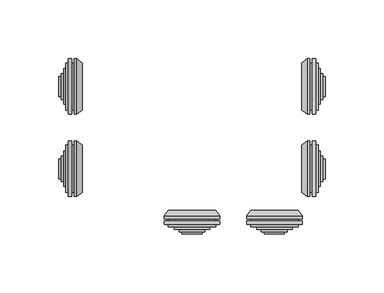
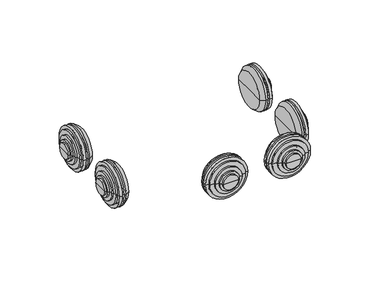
"""IFC4 building model written with IfcOpenShell, lengths in millimetres: cable carrier fitting geometry, КНС_КоробкаОтветвительнаяСКабельнымиВводами_10_IP55_DKC : с 10 кабельными вводами д.32мм, IP55, 190х140х70мм."""

from ifc_helpers import new_model, si_unit, frame, origin, place, context, project, spatial, polyline, circle_curve, source, transform, mapped, element, save
from ifc_brep_helpers import plane_surface, cylinder_surface, revolved_surface, advanced_brep


def cable_carrier_fitting_1a81308a(model_context):
    return source(origin(), model_context, "Body", "AdvancedBrep", [
        advanced_brep(
        [(-100.0, -55.0, 34.0), (-100.0, -15.0, 34.0), (-100.0, -11.5, 34.0), (-100.0, -58.5, 34.0), (-102.0, -55.0, 34.0), (-102.0, -15.0, 34.0), (-102.0, -58.5, 34.0), (-102.0, -11.5, 34.0), (-105.0, -58.5, 34.0), (-105.0, -11.5, 34.0), (-105.0, -55.0, 34.0), (-105.0, -15.0, 34.0), (-107.0, -55.0, 34.0), (-107.0, -15.0, 34.0), (-107.0, -50.0, 34.0), (-107.0, -20.0, 34.0), (-109.0, -50.0, 34.0), (-109.0, -20.0, 34.0), (-109.0, -46.0, 34.0), (-109.0, -24.0, 34.0), (-111.0, -46.0, 34.0), (-111.0, -24.0, 34.0), (-111.0, -43.5, 34.0), (-111.0, -26.5, 34.0), (-113.0, -43.5, 34.0), (-113.0, -26.5, 34.0), (-113.0, -35.0, 34.0), (-93.0, -55.0, 34.0), (-93.0, -15.0, 34.0), (-93.0, -35.0, 34.0), (-97.7491137, -58.5, 34.0), (-97.7491137, -11.5, 34.0)],
        [
            (0, 1, circle_curve(frame((-100.0, -35.0, 34.0), z_axis=(1.0, 0.0, 0.0), x_axis=(0.0, 1.0000000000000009, 0.0)), 20.0)),
            (1, 2),
            (2, 3, circle_curve(frame((-100.0, -35.0, 34.0), z_axis=(-1.0, 0.0, 0.0), x_axis=(0.0, 1.0000000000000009, 0.0)), 23.5)),
            (3, 0),
            (1, 0, circle_curve(frame((-100.0, -35.0, 34.0), z_axis=(1.0, 0.0, 0.0), x_axis=(0.0, 1.0000000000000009, 0.0)), 20.0)),
            (3, 2, circle_curve(frame((-100.0, -35.0, 34.0), z_axis=(-1.0, 0.0, 0.0), x_axis=(0.0, 1.0000000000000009, 0.0)), 23.5)),
            (4, 5, circle_curve(frame((-102.0, -35.0, 34.0), z_axis=(1.0, 0.0, 0.0), x_axis=(0.0, 1.0000000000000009, 0.0)), 20.0)),
            (5, 1),
            (0, 4),
            (5, 4, circle_curve(frame((-102.0, -35.0, 34.0), z_axis=(1.0, 0.0, 0.0), x_axis=(0.0, 1.0000000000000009, 0.0)), 20.0)),
            (6, 7, circle_curve(frame((-102.0, -35.0, 34.0), z_axis=(1.0, 0.0, 0.0), x_axis=(0.0, 1.0000000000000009, 0.0)), 23.5)),
            (7, 5),
            (4, 6),
            (7, 6, circle_curve(frame((-102.0, -35.0, 34.0), z_axis=(1.0, 0.0, 0.0), x_axis=(0.0, 1.0000000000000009, 0.0)), 23.5)),
            (8, 9, circle_curve(frame((-105.0, -35.0, 34.0), z_axis=(1.0, 0.0, 0.0), x_axis=(0.0, 1.0000000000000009, 0.0)), 23.5)),
            (9, 7),
            (6, 8),
            (9, 8, circle_curve(frame((-105.0, -35.0, 34.0), z_axis=(1.0, 0.0, 0.0), x_axis=(0.0, 1.0000000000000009, 0.0)), 23.5)),
            (10, 11, circle_curve(frame((-105.0, -35.0, 34.0), z_axis=(1.0, 0.0, 0.0), x_axis=(0.0, 1.0000000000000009, 0.0)), 20.0)),
            (11, 9),
            (8, 10),
            (11, 10, circle_curve(frame((-105.0, -35.0, 34.0), z_axis=(1.0, 0.0, 0.0), x_axis=(0.0, 1.0000000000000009, 0.0)), 20.0)),
            (12, 13, circle_curve(frame((-107.0, -35.0, 34.0), z_axis=(1.0, 0.0, 0.0), x_axis=(0.0, 1.0000000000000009, 0.0)), 20.0)),
            (13, 11),
            (10, 12),
            (13, 12, circle_curve(frame((-107.0, -35.0, 34.0), z_axis=(1.0, 0.0, 0.0), x_axis=(0.0, 1.0000000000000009, 0.0)), 20.0)),
            (14, 15, circle_curve(frame((-107.0, -35.0, 34.0), z_axis=(1.0, 0.0, 0.0), x_axis=(0.0, 1.0000000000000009, 0.0)), 15.0)),
            (15, 13),
            (12, 14),
            (15, 14, circle_curve(frame((-107.0, -35.0, 34.0), z_axis=(1.0, 0.0, 0.0), x_axis=(0.0, 1.0000000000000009, 0.0)), 15.0)),
            (16, 17, circle_curve(frame((-109.0, -35.0, 34.0), z_axis=(1.0, 0.0, 0.0), x_axis=(0.0, 1.0000000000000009, 0.0)), 15.0)),
            (17, 15),
            (14, 16),
            (17, 16, circle_curve(frame((-109.0, -35.0, 34.0), z_axis=(1.0, 0.0, 0.0), x_axis=(0.0, 1.0000000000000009, 0.0)), 15.0)),
            (18, 19, circle_curve(frame((-109.0, -35.0, 34.0), z_axis=(1.0, 0.0, 0.0), x_axis=(0.0, 1.0000000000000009, 0.0)), 11.0)),
            (19, 17),
            (16, 18),
            (19, 18, circle_curve(frame((-109.0, -35.0, 34.0), z_axis=(1.0, 0.0, 0.0), x_axis=(0.0, 1.0000000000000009, 0.0)), 11.0)),
            (20, 21, circle_curve(frame((-111.0, -35.0, 34.0), z_axis=(1.0, 0.0, 0.0), x_axis=(0.0, 1.0000000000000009, 0.0)), 11.0)),
            (21, 19),
            (18, 20),
            (21, 20, circle_curve(frame((-111.0, -35.0, 34.0), z_axis=(1.0, 0.0, 0.0), x_axis=(0.0, 1.0000000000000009, 0.0)), 11.0)),
            (22, 23, circle_curve(frame((-111.0, -35.0, 34.0), z_axis=(1.0, 0.0, 0.0), x_axis=(0.0, 1.0000000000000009, 0.0)), 8.5)),
            (23, 21),
            (20, 22),
            (23, 22, circle_curve(frame((-111.0, -35.0, 34.0), z_axis=(1.0, 0.0, 0.0), x_axis=(0.0, 1.0000000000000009, 0.0)), 8.5)),
            (24, 25, circle_curve(frame((-113.0, -35.0, 34.0), z_axis=(1.0, 0.0, 0.0), x_axis=(0.0, 1.0000000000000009, 0.0)), 8.5)),
            (25, 23),
            (22, 24),
            (25, 24, circle_curve(frame((-113.0, -35.0, 34.0), z_axis=(1.0, 0.0, 0.0), x_axis=(0.0, 1.0000000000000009, 0.0)), 8.5)),
            (26, 25),
            (24, 26),
            (27, 28, circle_curve(frame((-93.0, -35.0, 34.0), z_axis=(1.0, 0.0, 0.0), x_axis=(0.0, 1.0000000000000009, 0.0)), 20.0)),
            (28, 29),
            (29, 27),
            (28, 27, circle_curve(frame((-93.0, -35.0, 34.0), z_axis=(1.0, 0.0, 0.0), x_axis=(0.0, 1.0000000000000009, 0.0)), 20.0)),
            (30, 31, circle_curve(frame((-97.7491137, -35.0, 34.0), z_axis=(1.0, 0.0, 0.0), x_axis=(0.0, 1.0000000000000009, 0.0)), 23.5)),
            (31, 28),
            (27, 30),
            (31, 30, circle_curve(frame((-97.7491137, -35.0, 34.0), z_axis=(1.0, 0.0, 0.0), x_axis=(0.0, 1.0000000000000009, 0.0)), 23.5)),
            (2, 31),
            (30, 3),
        ],
        [
            plane_surface(frame((-100.0, -35.0, 34.0), z_axis=(-1.0, 0.0, 0.0), x_axis=(0.0, 1.0, 0.0))),
            cylinder_surface(frame((1413.0, -35.0, 34.0), z_axis=(-1.0000000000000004, 0.0, 0.0), x_axis=(0.0, 1.0000000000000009, 0.0)), 20.0),
            plane_surface(frame((-102.0, -35.0, 34.0), z_axis=(1.0, 0.0, 0.0), x_axis=(0.0, 1.0, 0.0))),
            cylinder_surface(frame((1413.0, -35.0, 34.0), z_axis=(-1.0000000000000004, 0.0, 0.0), x_axis=(0.0, 1.0000000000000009, 0.0)), 23.5),
            plane_surface(frame((-105.0, -35.0, 34.0), z_axis=(-1.0, 0.0, 0.0), x_axis=(0.0, 1.0, 0.0))),
            plane_surface(frame((-107.0, -35.0, 34.0), z_axis=(-1.0, 0.0, 0.0), x_axis=(0.0, 1.0, 0.0))),
            cylinder_surface(frame((1413.0, -35.0, 34.0), z_axis=(-1.0000000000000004, 0.0, 0.0), x_axis=(0.0, 1.0000000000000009, 0.0)), 15.0),
            plane_surface(frame((-109.0, -35.0, 34.0), z_axis=(-1.0, 0.0, 0.0), x_axis=(0.0, 1.0, 0.0))),
            cylinder_surface(frame((1413.0, -35.0, 34.0), z_axis=(-1.0000000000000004, 0.0, 0.0), x_axis=(0.0, 1.0000000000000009, 0.0)), 11.0),
            plane_surface(frame((-111.0, -35.0, 34.0), z_axis=(-1.0, 0.0, 0.0), x_axis=(0.0, 1.0, 0.0))),
            cylinder_surface(frame((1413.0, -35.0, 34.0), z_axis=(-1.0000000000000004, 0.0, 0.0), x_axis=(0.0, 1.0000000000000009, 0.0)), 8.5),
            plane_surface(frame((-113.0, -35.0, 34.0), z_axis=(-1.0, 0.0, 0.0), x_axis=(0.0, 1.0, 0.0))),
            plane_surface(frame((-93.0, -35.0, 34.0), z_axis=(1.0, 0.0, 0.0), x_axis=(0.0, 1.0, 0.0))),
            revolved_surface(polyline([(-93.0, -15.0, 34.0), (-97.7491137, -11.5, 34.0)]), (1413.0, -35.0, 34.0), (-1.0000000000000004, 0.0, 0.0)),
        ],
        [
            (0, [[1, 2, 3, 4]]),
            (0, [[5, -4, 6, -2]]),
            (1, [[7, 8, -1, 9]]),
            (1, [[10, -9, -5, -8]]),
            (2, [[11, 12, -7, 13]]),
            (2, [[14, -13, -10, -12]]),
            (3, [[15, 16, -11, 17]]),
            (3, [[18, -17, -14, -16]]),
            (4, [[19, 20, -15, 21]]),
            (4, [[22, -21, -18, -20]]),
            (1, [[23, 24, -19, 25]]),
            (1, [[26, -25, -22, -24]]),
            (5, [[27, 28, -23, 29]]),
            (5, [[30, -29, -26, -28]]),
            (6, [[31, 32, -27, 33]]),
            (6, [[34, -33, -30, -32]]),
            (7, [[35, 36, -31, 37]]),
            (7, [[38, -37, -34, -36]]),
            (8, [[39, 40, -35, 41]]),
            (8, [[42, -41, -38, -40]]),
            (9, [[43, 44, -39, 45]]),
            (9, [[46, -45, -42, -44]]),
            (10, [[47, 48, -43, 49]]),
            (10, [[50, -49, -46, -48]]),
            (11, [[51, -47, 52]]),
            (11, [[-52, -50, -51]]),
            (12, [[53, 54, 55]]),
            (12, [[56, -55, -54]]),
            (13, [[57, 58, -53, 59]]),
            (13, [[60, -59, -56, -58]]),
            (3, [[-3, 61, -57, 62]]),
            (3, [[-6, -62, -60, -61]]),
        ],
    ),
        advanced_brep(
        [(-100.0, 15.0, 34.0), (-100.0, 55.0, 34.0), (-100.0, 58.5, 34.0), (-100.0, 11.5, 34.0), (-102.0, 15.0, 34.0), (-102.0, 55.0, 34.0), (-102.0, 11.5, 34.0), (-102.0, 58.5, 34.0), (-105.0, 11.5, 34.0), (-105.0, 58.5, 34.0), (-105.0, 15.0, 34.0), (-105.0, 55.0, 34.0), (-107.0, 15.0, 34.0), (-107.0, 55.0, 34.0), (-107.0, 20.0, 34.0), (-107.0, 50.0, 34.0), (-109.0, 20.0, 34.0), (-109.0, 50.0, 34.0), (-109.0, 24.0, 34.0), (-109.0, 46.0, 34.0), (-111.0, 24.0, 34.0), (-111.0, 46.0, 34.0), (-111.0, 26.5, 34.0), (-111.0, 43.5, 34.0), (-113.0, 26.5, 34.0), (-113.0, 43.5, 34.0), (-113.0, 35.0, 34.0), (-93.0, 15.0, 34.0), (-93.0, 55.0, 34.0), (-93.0, 35.0, 34.0), (-97.7491137, 11.5, 34.0), (-97.7491137, 58.5, 34.0)],
        [
            (0, 1, circle_curve(frame((-100.0, 35.0, 34.0), z_axis=(1.0, 0.0, 0.0), x_axis=(0.0, 1.0000000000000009, 0.0)), 20.0)),
            (1, 2),
            (2, 3, circle_curve(frame((-100.0, 35.0, 34.0), z_axis=(-1.0, 0.0, 0.0), x_axis=(0.0, 1.0000000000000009, 0.0)), 23.5)),
            (3, 0),
            (1, 0, circle_curve(frame((-100.0, 35.0, 34.0), z_axis=(1.0, 0.0, 0.0), x_axis=(0.0, 1.0000000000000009, 0.0)), 20.0)),
            (3, 2, circle_curve(frame((-100.0, 35.0, 34.0), z_axis=(-1.0, 0.0, 0.0), x_axis=(0.0, 1.0000000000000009, 0.0)), 23.5)),
            (4, 5, circle_curve(frame((-102.0, 35.0, 34.0), z_axis=(1.0, 0.0, 0.0), x_axis=(0.0, 1.0000000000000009, 0.0)), 20.0)),
            (5, 1),
            (0, 4),
            (5, 4, circle_curve(frame((-102.0, 35.0, 34.0), z_axis=(1.0, 0.0, 0.0), x_axis=(0.0, 1.0000000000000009, 0.0)), 20.0)),
            (6, 7, circle_curve(frame((-102.0, 35.0, 34.0), z_axis=(1.0, 0.0, 0.0), x_axis=(0.0, 1.0000000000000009, 0.0)), 23.5)),
            (7, 5),
            (4, 6),
            (7, 6, circle_curve(frame((-102.0, 35.0, 34.0), z_axis=(1.0, 0.0, 0.0), x_axis=(0.0, 1.0000000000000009, 0.0)), 23.5)),
            (8, 9, circle_curve(frame((-105.0, 35.0, 34.0), z_axis=(1.0, 0.0, 0.0), x_axis=(0.0, 1.0000000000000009, 0.0)), 23.5)),
            (9, 7),
            (6, 8),
            (9, 8, circle_curve(frame((-105.0, 35.0, 34.0), z_axis=(1.0, 0.0, 0.0), x_axis=(0.0, 1.0000000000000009, 0.0)), 23.5)),
            (10, 11, circle_curve(frame((-105.0, 35.0, 34.0), z_axis=(1.0, 0.0, 0.0), x_axis=(0.0, 1.0000000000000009, 0.0)), 20.0)),
            (11, 9),
            (8, 10),
            (11, 10, circle_curve(frame((-105.0, 35.0, 34.0), z_axis=(1.0, 0.0, 0.0), x_axis=(0.0, 1.0000000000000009, 0.0)), 20.0)),
            (12, 13, circle_curve(frame((-107.0, 35.0, 34.0), z_axis=(1.0, 0.0, 0.0), x_axis=(0.0, 1.0000000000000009, 0.0)), 20.0)),
            (13, 11),
            (10, 12),
            (13, 12, circle_curve(frame((-107.0, 35.0, 34.0), z_axis=(1.0, 0.0, 0.0), x_axis=(0.0, 1.0000000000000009, 0.0)), 20.0)),
            (14, 15, circle_curve(frame((-107.0, 35.0, 34.0), z_axis=(1.0, 0.0, 0.0), x_axis=(0.0, 1.0000000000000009, 0.0)), 15.0)),
            (15, 13),
            (12, 14),
            (15, 14, circle_curve(frame((-107.0, 35.0, 34.0), z_axis=(1.0, 0.0, 0.0), x_axis=(0.0, 1.0000000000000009, 0.0)), 15.0)),
            (16, 17, circle_curve(frame((-109.0, 35.0, 34.0), z_axis=(1.0, 0.0, 0.0), x_axis=(0.0, 1.0000000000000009, 0.0)), 15.0)),
            (17, 15),
            (14, 16),
            (17, 16, circle_curve(frame((-109.0, 35.0, 34.0), z_axis=(1.0, 0.0, 0.0), x_axis=(0.0, 1.0000000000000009, 0.0)), 15.0)),
            (18, 19, circle_curve(frame((-109.0, 35.0, 34.0), z_axis=(1.0, 0.0, 0.0), x_axis=(0.0, 1.0000000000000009, 0.0)), 11.0)),
            (19, 17),
            (16, 18),
            (19, 18, circle_curve(frame((-109.0, 35.0, 34.0), z_axis=(1.0, 0.0, 0.0), x_axis=(0.0, 1.0000000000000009, 0.0)), 11.0)),
            (20, 21, circle_curve(frame((-111.0, 35.0, 34.0), z_axis=(1.0, 0.0, 0.0), x_axis=(0.0, 1.0000000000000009, 0.0)), 11.0)),
            (21, 19),
            (18, 20),
            (21, 20, circle_curve(frame((-111.0, 35.0, 34.0), z_axis=(1.0, 0.0, 0.0), x_axis=(0.0, 1.0000000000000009, 0.0)), 11.0)),
            (22, 23, circle_curve(frame((-111.0, 35.0, 34.0), z_axis=(1.0, 0.0, 0.0), x_axis=(0.0, 1.0000000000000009, 0.0)), 8.5)),
            (23, 21),
            (20, 22),
            (23, 22, circle_curve(frame((-111.0, 35.0, 34.0), z_axis=(1.0, 0.0, 0.0), x_axis=(0.0, 1.0000000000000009, 0.0)), 8.5)),
            (24, 25, circle_curve(frame((-113.0, 35.0, 34.0), z_axis=(1.0, 0.0, 0.0), x_axis=(0.0, 1.0000000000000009, 0.0)), 8.5)),
            (25, 23),
            (22, 24),
            (25, 24, circle_curve(frame((-113.0, 35.0, 34.0), z_axis=(1.0, 0.0, 0.0), x_axis=(0.0, 1.0000000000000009, 0.0)), 8.5)),
            (26, 25),
            (24, 26),
            (27, 28, circle_curve(frame((-93.0, 35.0, 34.0), z_axis=(1.0, 0.0, 0.0), x_axis=(0.0, 1.0000000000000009, 0.0)), 20.0)),
            (28, 29),
            (29, 27),
            (28, 27, circle_curve(frame((-93.0, 35.0, 34.0), z_axis=(1.0, 0.0, 0.0), x_axis=(0.0, 1.0000000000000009, 0.0)), 20.0)),
            (30, 31, circle_curve(frame((-97.7491137, 35.0, 34.0), z_axis=(1.0, 0.0, 0.0), x_axis=(0.0, 1.0000000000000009, 0.0)), 23.5)),
            (31, 28),
            (27, 30),
            (31, 30, circle_curve(frame((-97.7491137, 35.0, 34.0), z_axis=(1.0, 0.0, 0.0), x_axis=(0.0, 1.0000000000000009, 0.0)), 23.5)),
            (2, 31),
            (30, 3),
        ],
        [
            plane_surface(frame((-100.0, 35.0, 34.0), z_axis=(-1.0, 0.0, 0.0), x_axis=(0.0, 1.0, 0.0))),
            cylinder_surface(frame((1413.0, 35.0, 34.0), z_axis=(-1.0000000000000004, 0.0, 0.0), x_axis=(0.0, 1.0000000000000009, 0.0)), 20.0),
            plane_surface(frame((-102.0, 35.0, 34.0), z_axis=(1.0, 0.0, 0.0), x_axis=(0.0, 1.0, 0.0))),
            cylinder_surface(frame((1413.0, 35.0, 34.0), z_axis=(-1.0000000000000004, 0.0, 0.0), x_axis=(0.0, 1.0000000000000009, 0.0)), 23.5),
            plane_surface(frame((-105.0, 35.0, 34.0), z_axis=(-1.0, 0.0, 0.0), x_axis=(0.0, 1.0, 0.0))),
            plane_surface(frame((-107.0, 35.0, 34.0), z_axis=(-1.0, 0.0, 0.0), x_axis=(0.0, 1.0, 0.0))),
            cylinder_surface(frame((1413.0, 35.0, 34.0), z_axis=(-1.0000000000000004, 0.0, 0.0), x_axis=(0.0, 1.0000000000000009, 0.0)), 15.0),
            plane_surface(frame((-109.0, 35.0, 34.0), z_axis=(-1.0, 0.0, 0.0), x_axis=(0.0, 1.0, 0.0))),
            cylinder_surface(frame((1413.0, 35.0, 34.0), z_axis=(-1.0000000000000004, 0.0, 0.0), x_axis=(0.0, 1.0000000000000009, 0.0)), 11.0),
            plane_surface(frame((-111.0, 35.0, 34.0), z_axis=(-1.0, 0.0, 0.0), x_axis=(0.0, 1.0, 0.0))),
            cylinder_surface(frame((1413.0, 35.0, 34.0), z_axis=(-1.0000000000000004, 0.0, 0.0), x_axis=(0.0, 1.0000000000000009, 0.0)), 8.5),
            plane_surface(frame((-113.0, 35.0, 34.0), z_axis=(-1.0, 0.0, 0.0), x_axis=(0.0, 1.0, 0.0))),
            plane_surface(frame((-93.0, 35.0, 34.0), z_axis=(1.0, 0.0, 0.0), x_axis=(0.0, 1.0, 0.0))),
            revolved_surface(polyline([(-93.0, 55.0, 34.0), (-97.7491137, 58.5, 34.0)]), (1413.0, 35.0, 34.0), (-1.0000000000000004, 0.0, 0.0)),
        ],
        [
            (0, [[1, 2, 3, 4]]),
            (0, [[5, -4, 6, -2]]),
            (1, [[7, 8, -1, 9]]),
            (1, [[10, -9, -5, -8]]),
            (2, [[11, 12, -7, 13]]),
            (2, [[14, -13, -10, -12]]),
            (3, [[15, 16, -11, 17]]),
            (3, [[18, -17, -14, -16]]),
            (4, [[19, 20, -15, 21]]),
            (4, [[22, -21, -18, -20]]),
            (1, [[23, 24, -19, 25]]),
            (1, [[26, -25, -22, -24]]),
            (5, [[27, 28, -23, 29]]),
            (5, [[30, -29, -26, -28]]),
            (6, [[31, 32, -27, 33]]),
            (6, [[34, -33, -30, -32]]),
            (7, [[35, 36, -31, 37]]),
            (7, [[38, -37, -34, -36]]),
            (8, [[39, 40, -35, 41]]),
            (8, [[42, -41, -38, -40]]),
            (9, [[43, 44, -39, 45]]),
            (9, [[46, -45, -42, -44]]),
            (10, [[47, 48, -43, 49]]),
            (10, [[50, -49, -46, -48]]),
            (11, [[51, -47, 52]]),
            (11, [[-52, -50, -51]]),
            (12, [[53, 54, 55]]),
            (12, [[56, -55, -54]]),
            (13, [[57, 58, -53, 59]]),
            (13, [[60, -59, -56, -58]]),
            (3, [[-3, 61, -57, 62]]),
            (3, [[-6, -62, -60, -61]]),
        ],
    ),
        advanced_brep(
        [(100.0, 55.0, 34.0), (100.0, 15.0, 34.0), (100.0, 11.5, 34.0), (100.0, 58.5, 34.0), (102.0, 55.0, 34.0), (102.0, 15.0, 34.0), (102.0, 58.5, 34.0), (102.0, 11.5, 34.0), (105.0, 58.5, 34.0), (105.0, 11.5, 34.0), (105.0, 55.0, 34.0), (105.0, 15.0, 34.0), (107.0, 55.0, 34.0), (107.0, 15.0, 34.0), (107.0, 50.0, 34.0), (107.0, 20.0, 34.0), (109.0, 50.0, 34.0), (109.0, 20.0, 34.0), (109.0, 46.0, 34.0), (109.0, 24.0, 34.0), (111.0, 46.0, 34.0), (111.0, 24.0, 34.0), (111.0, 43.5, 34.0), (111.0, 26.5, 34.0), (113.0, 43.5, 34.0), (113.0, 26.5, 34.0), (113.0, 35.0, 34.0), (93.0, 55.0, 34.0), (93.0, 15.0, 34.0), (93.0, 35.0, 34.0), (97.7491137, 58.5, 34.0), (97.7491137, 11.5, 34.0)],
        [
            (0, 1, circle_curve(frame((100.0, 35.0, 34.0), z_axis=(-1.0, 0.0, 0.0), x_axis=(0.0, -1.0, 0.0)), 20.0)),
            (1, 2),
            (2, 3, circle_curve(frame((100.0, 35.0, 34.0), z_axis=(1.0, 0.0, 0.0), x_axis=(0.0, -1.0, 0.0)), 23.5)),
            (3, 0),
            (1, 0, circle_curve(frame((100.0, 35.0, 34.0), z_axis=(-1.0, 0.0, 0.0), x_axis=(0.0, -1.0, 0.0)), 20.0)),
            (3, 2, circle_curve(frame((100.0, 35.0, 34.0), z_axis=(1.0, 0.0, 0.0), x_axis=(0.0, -1.0, 0.0)), 23.5)),
            (4, 5, circle_curve(frame((102.0, 35.0, 34.0), z_axis=(-1.0, 0.0, 0.0), x_axis=(0.0, -1.0, 0.0)), 20.0)),
            (5, 1),
            (0, 4),
            (5, 4, circle_curve(frame((102.0, 35.0, 34.0), z_axis=(-1.0, 0.0, 0.0), x_axis=(0.0, -1.0, 0.0)), 20.0)),
            (6, 7, circle_curve(frame((102.0, 35.0, 34.0), z_axis=(-1.0, 0.0, 0.0), x_axis=(0.0, -1.0, 0.0)), 23.5)),
            (7, 5),
            (4, 6),
            (7, 6, circle_curve(frame((102.0, 35.0, 34.0), z_axis=(-1.0, 0.0, 0.0), x_axis=(0.0, -1.0, 0.0)), 23.5)),
            (8, 9, circle_curve(frame((105.0, 35.0, 34.0), z_axis=(-1.0, 0.0, 0.0), x_axis=(0.0, -1.0, 0.0)), 23.5)),
            (9, 7),
            (6, 8),
            (9, 8, circle_curve(frame((105.0, 35.0, 34.0), z_axis=(-1.0, 0.0, 0.0), x_axis=(0.0, -1.0, 0.0)), 23.5)),
            (10, 11, circle_curve(frame((105.0, 35.0, 34.0), z_axis=(-1.0, 0.0, 0.0), x_axis=(0.0, -1.0, 0.0)), 20.0)),
            (11, 9),
            (8, 10),
            (11, 10, circle_curve(frame((105.0, 35.0, 34.0), z_axis=(-1.0, 0.0, 0.0), x_axis=(0.0, -1.0, 0.0)), 20.0)),
            (12, 13, circle_curve(frame((107.0, 35.0, 34.0), z_axis=(-1.0, 0.0, 0.0), x_axis=(0.0, -1.0, 0.0)), 20.0)),
            (13, 11),
            (10, 12),
            (13, 12, circle_curve(frame((107.0, 35.0, 34.0), z_axis=(-1.0, 0.0, 0.0), x_axis=(0.0, -1.0, 0.0)), 20.0)),
            (14, 15, circle_curve(frame((107.0, 35.0, 34.0), z_axis=(-1.0, 0.0, 0.0), x_axis=(0.0, -1.0, 0.0)), 15.0)),
            (15, 13),
            (12, 14),
            (15, 14, circle_curve(frame((107.0, 35.0, 34.0), z_axis=(-1.0, 0.0, 0.0), x_axis=(0.0, -1.0, 0.0)), 15.0)),
            (16, 17, circle_curve(frame((109.0, 35.0, 34.0), z_axis=(-1.0, 0.0, 0.0), x_axis=(0.0, -1.0, 0.0)), 15.0)),
            (17, 15),
            (14, 16),
            (17, 16, circle_curve(frame((109.0, 35.0, 34.0), z_axis=(-1.0, 0.0, 0.0), x_axis=(0.0, -1.0, 0.0)), 15.0)),
            (18, 19, circle_curve(frame((109.0, 35.0, 34.0), z_axis=(-1.0, 0.0, 0.0), x_axis=(0.0, -1.0, 0.0)), 11.0)),
            (19, 17),
            (16, 18),
            (19, 18, circle_curve(frame((109.0, 35.0, 34.0), z_axis=(-1.0, 0.0, 0.0), x_axis=(0.0, -1.0, 0.0)), 11.0)),
            (20, 21, circle_curve(frame((111.0, 35.0, 34.0), z_axis=(-1.0, 0.0, 0.0), x_axis=(0.0, -1.0, 0.0)), 11.0)),
            (21, 19),
            (18, 20),
            (21, 20, circle_curve(frame((111.0, 35.0, 34.0), z_axis=(-1.0, 0.0, 0.0), x_axis=(0.0, -1.0, 0.0)), 11.0)),
            (22, 23, circle_curve(frame((111.0, 35.0, 34.0), z_axis=(-1.0, 0.0, 0.0), x_axis=(0.0, -1.0, 0.0)), 8.5)),
            (23, 21),
            (20, 22),
            (23, 22, circle_curve(frame((111.0, 35.0, 34.0), z_axis=(-1.0, 0.0, 0.0), x_axis=(0.0, -1.0, 0.0)), 8.5)),
            (24, 25, circle_curve(frame((113.0, 35.0, 34.0), z_axis=(-1.0, 0.0, 0.0), x_axis=(0.0, -1.0, 0.0)), 8.5)),
            (25, 23),
            (22, 24),
            (25, 24, circle_curve(frame((113.0, 35.0, 34.0), z_axis=(-1.0, 0.0, 0.0), x_axis=(0.0, -1.0, 0.0)), 8.5)),
            (26, 25),
            (24, 26),
            (27, 28, circle_curve(frame((93.0, 35.0, 34.0), z_axis=(-1.0, 0.0, 0.0), x_axis=(0.0, -1.0, 0.0)), 20.0)),
            (28, 29),
            (29, 27),
            (28, 27, circle_curve(frame((93.0, 35.0, 34.0), z_axis=(-1.0, 0.0, 0.0), x_axis=(0.0, -1.0, 0.0)), 20.0)),
            (30, 31, circle_curve(frame((97.7491137, 35.0, 34.0), z_axis=(-1.0, 0.0, 0.0), x_axis=(0.0, -1.0, 0.0)), 23.5)),
            (31, 28),
            (27, 30),
            (31, 30, circle_curve(frame((97.7491137, 35.0, 34.0), z_axis=(-1.0, 0.0, 0.0), x_axis=(0.0, -1.0, 0.0)), 23.5)),
            (2, 31),
            (30, 3),
        ],
        [
            plane_surface(frame((100.0, 35.0, 34.0), z_axis=(1.0, 0.0, 0.0), x_axis=(0.0, -1.0, 0.0))),
            cylinder_surface(frame((-1413.0, 35.0, 34.0), z_axis=(1.0, 0.0, 0.0), x_axis=(0.0, -1.0, 0.0)), 20.0),
            plane_surface(frame((102.0, 35.0, 34.0), z_axis=(-1.0, 0.0, 0.0), x_axis=(0.0, -1.0, 0.0))),
            cylinder_surface(frame((-1413.0, 35.0, 34.0), z_axis=(1.0, 0.0, 0.0), x_axis=(0.0, -1.0, 0.0)), 23.5),
            plane_surface(frame((105.0, 35.0, 34.0), z_axis=(1.0, 0.0, 0.0), x_axis=(0.0, -1.0, 0.0))),
            plane_surface(frame((107.0, 35.0, 34.0), z_axis=(1.0, 0.0, 0.0), x_axis=(0.0, -1.0, 0.0))),
            cylinder_surface(frame((-1413.0, 35.0, 34.0), z_axis=(1.0, 0.0, 0.0), x_axis=(0.0, -1.0, 0.0)), 15.0),
            plane_surface(frame((109.0, 35.0, 34.0), z_axis=(1.0, 0.0, 0.0), x_axis=(0.0, -1.0, 0.0))),
            cylinder_surface(frame((-1413.0, 35.0, 34.0), z_axis=(1.0, 0.0, 0.0), x_axis=(0.0, -1.0, 0.0)), 11.0),
            plane_surface(frame((111.0, 35.0, 34.0), z_axis=(1.0, 0.0, 0.0), x_axis=(0.0, -1.0, 0.0))),
            cylinder_surface(frame((-1413.0, 35.0, 34.0), z_axis=(1.0, 0.0, 0.0), x_axis=(0.0, -1.0, 0.0)), 8.5),
            plane_surface(frame((113.0, 35.0, 34.0), z_axis=(1.0, 0.0, 0.0), x_axis=(0.0, -1.0, 0.0))),
            plane_surface(frame((93.0, 35.0, 34.0), z_axis=(-1.0, 0.0, 0.0), x_axis=(0.0, -1.0, 0.0))),
            revolved_surface(polyline([(93.0, 15.0, 34.0), (97.7491137, 11.5, 34.0)]), (-1413.0, 35.0, 34.0), (1.0, 0.0, 0.0)),
        ],
        [
            (0, [[1, 2, 3, 4]]),
            (0, [[5, -4, 6, -2]]),
            (1, [[7, 8, -1, 9]]),
            (1, [[10, -9, -5, -8]]),
            (2, [[11, 12, -7, 13]]),
            (2, [[14, -13, -10, -12]]),
            (3, [[15, 16, -11, 17]]),
            (3, [[18, -17, -14, -16]]),
            (4, [[19, 20, -15, 21]]),
            (4, [[22, -21, -18, -20]]),
            (1, [[23, 24, -19, 25]]),
            (1, [[26, -25, -22, -24]]),
            (5, [[27, 28, -23, 29]]),
            (5, [[30, -29, -26, -28]]),
            (6, [[31, 32, -27, 33]]),
            (6, [[34, -33, -30, -32]]),
            (7, [[35, 36, -31, 37]]),
            (7, [[38, -37, -34, -36]]),
            (8, [[39, 40, -35, 41]]),
            (8, [[42, -41, -38, -40]]),
            (9, [[43, 44, -39, 45]]),
            (9, [[46, -45, -42, -44]]),
            (10, [[47, 48, -43, 49]]),
            (10, [[50, -49, -46, -48]]),
            (11, [[51, -47, 52]]),
            (11, [[-52, -50, -51]]),
            (12, [[53, 54, 55]]),
            (12, [[56, -55, -54]]),
            (13, [[57, 58, -53, 59]]),
            (13, [[60, -59, -56, -58]]),
            (3, [[-3, 61, -57, 62]]),
            (3, [[-6, -62, -60, -61]]),
        ],
    ),
        advanced_brep(
        [(100.0, -15.0, 34.0), (100.0, -55.0, 34.0), (100.0, -58.5, 34.0), (100.0, -11.5, 34.0), (102.0, -15.0, 34.0), (102.0, -55.0, 34.0), (102.0, -11.5, 34.0), (102.0, -58.5, 34.0), (105.0, -11.5, 34.0), (105.0, -58.5, 34.0), (105.0, -15.0, 34.0), (105.0, -55.0, 34.0), (107.0, -15.0, 34.0), (107.0, -55.0, 34.0), (107.0, -20.0, 34.0), (107.0, -50.0, 34.0), (109.0, -20.0, 34.0), (109.0, -50.0, 34.0), (109.0, -24.0, 34.0), (109.0, -46.0, 34.0), (111.0, -24.0, 34.0), (111.0, -46.0, 34.0), (111.0, -26.5, 34.0), (111.0, -43.5, 34.0), (113.0, -26.5, 34.0), (113.0, -43.5, 34.0), (113.0, -35.0, 34.0), (93.0, -15.0, 34.0), (93.0, -55.0, 34.0), (93.0, -35.0, 34.0), (97.7491137, -11.5, 34.0), (97.7491137, -58.5, 34.0)],
        [
            (0, 1, circle_curve(frame((100.0, -35.0, 34.0), z_axis=(-1.0, 0.0, 0.0), x_axis=(0.0, -1.0000000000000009, 0.0)), 20.0)),
            (1, 2),
            (2, 3, circle_curve(frame((100.0, -35.0, 34.0), z_axis=(1.0, 0.0, 0.0), x_axis=(0.0, -1.0000000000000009, 0.0)), 23.5)),
            (3, 0),
            (1, 0, circle_curve(frame((100.0, -35.0, 34.0), z_axis=(-1.0, 0.0, 0.0), x_axis=(0.0, -1.0000000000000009, 0.0)), 20.0)),
            (3, 2, circle_curve(frame((100.0, -35.0, 34.0), z_axis=(1.0, 0.0, 0.0), x_axis=(0.0, -1.0000000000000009, 0.0)), 23.5)),
            (4, 5, circle_curve(frame((102.0, -35.0, 34.0), z_axis=(-1.0, 0.0, 0.0), x_axis=(0.0, -1.0000000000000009, 0.0)), 20.0)),
            (5, 1),
            (0, 4),
            (5, 4, circle_curve(frame((102.0, -35.0, 34.0), z_axis=(-1.0, 0.0, 0.0), x_axis=(0.0, -1.0000000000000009, 0.0)), 20.0)),
            (6, 7, circle_curve(frame((102.0, -35.0, 34.0), z_axis=(-1.0, 0.0, 0.0), x_axis=(0.0, -1.0000000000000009, 0.0)), 23.5)),
            (7, 5),
            (4, 6),
            (7, 6, circle_curve(frame((102.0, -35.0, 34.0), z_axis=(-1.0, 0.0, 0.0), x_axis=(0.0, -1.0000000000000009, 0.0)), 23.5)),
            (8, 9, circle_curve(frame((105.0, -35.0, 34.0), z_axis=(-1.0, 0.0, 0.0), x_axis=(0.0, -1.0000000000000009, 0.0)), 23.5)),
            (9, 7),
            (6, 8),
            (9, 8, circle_curve(frame((105.0, -35.0, 34.0), z_axis=(-1.0, 0.0, 0.0), x_axis=(0.0, -1.0000000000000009, 0.0)), 23.5)),
            (10, 11, circle_curve(frame((105.0, -35.0, 34.0), z_axis=(-1.0, 0.0, 0.0), x_axis=(0.0, -1.0000000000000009, 0.0)), 20.0)),
            (11, 9),
            (8, 10),
            (11, 10, circle_curve(frame((105.0, -35.0, 34.0), z_axis=(-1.0, 0.0, 0.0), x_axis=(0.0, -1.0000000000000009, 0.0)), 20.0)),
            (12, 13, circle_curve(frame((107.0, -35.0, 34.0), z_axis=(-1.0, 0.0, 0.0), x_axis=(0.0, -1.0000000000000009, 0.0)), 20.0)),
            (13, 11),
            (10, 12),
            (13, 12, circle_curve(frame((107.0, -35.0, 34.0), z_axis=(-1.0, 0.0, 0.0), x_axis=(0.0, -1.0000000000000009, 0.0)), 20.0)),
            (14, 15, circle_curve(frame((107.0, -35.0, 34.0), z_axis=(-1.0, 0.0, 0.0), x_axis=(0.0, -1.0000000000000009, 0.0)), 15.0)),
            (15, 13),
            (12, 14),
            (15, 14, circle_curve(frame((107.0, -35.0, 34.0), z_axis=(-1.0, 0.0, 0.0), x_axis=(0.0, -1.0000000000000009, 0.0)), 15.0)),
            (16, 17, circle_curve(frame((109.0, -35.0, 34.0), z_axis=(-1.0, 0.0, 0.0), x_axis=(0.0, -1.0000000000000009, 0.0)), 15.0)),
            (17, 15),
            (14, 16),
            (17, 16, circle_curve(frame((109.0, -35.0, 34.0), z_axis=(-1.0, 0.0, 0.0), x_axis=(0.0, -1.0000000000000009, 0.0)), 15.0)),
            (18, 19, circle_curve(frame((109.0, -35.0, 34.0), z_axis=(-1.0, 0.0, 0.0), x_axis=(0.0, -1.0000000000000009, 0.0)), 11.0)),
            (19, 17),
            (16, 18),
            (19, 18, circle_curve(frame((109.0, -35.0, 34.0), z_axis=(-1.0, 0.0, 0.0), x_axis=(0.0, -1.0000000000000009, 0.0)), 11.0)),
            (20, 21, circle_curve(frame((111.0, -35.0, 34.0), z_axis=(-1.0, 0.0, 0.0), x_axis=(0.0, -1.0000000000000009, 0.0)), 11.0)),
            (21, 19),
            (18, 20),
            (21, 20, circle_curve(frame((111.0, -35.0, 34.0), z_axis=(-1.0, 0.0, 0.0), x_axis=(0.0, -1.0000000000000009, 0.0)), 11.0)),
            (22, 23, circle_curve(frame((111.0, -35.0, 34.0), z_axis=(-1.0, 0.0, 0.0), x_axis=(0.0, -1.0000000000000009, 0.0)), 8.5)),
            (23, 21),
            (20, 22),
            (23, 22, circle_curve(frame((111.0, -35.0, 34.0), z_axis=(-1.0, 0.0, 0.0), x_axis=(0.0, -1.0000000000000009, 0.0)), 8.5)),
            (24, 25, circle_curve(frame((113.0, -35.0, 34.0), z_axis=(-1.0, 0.0, 0.0), x_axis=(0.0, -1.0000000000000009, 0.0)), 8.5)),
            (25, 23),
            (22, 24),
            (25, 24, circle_curve(frame((113.0, -35.0, 34.0), z_axis=(-1.0, 0.0, 0.0), x_axis=(0.0, -1.0000000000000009, 0.0)), 8.5)),
            (26, 25),
            (24, 26),
            (27, 28, circle_curve(frame((93.0, -35.0, 34.0), z_axis=(-1.0, 0.0, 0.0), x_axis=(0.0, -1.0000000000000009, 0.0)), 20.0)),
            (28, 29),
            (29, 27),
            (28, 27, circle_curve(frame((93.0, -35.0, 34.0), z_axis=(-1.0, 0.0, 0.0), x_axis=(0.0, -1.0000000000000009, 0.0)), 20.0)),
            (30, 31, circle_curve(frame((97.7491137, -35.0, 34.0), z_axis=(-1.0, 0.0, 0.0), x_axis=(0.0, -1.0000000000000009, 0.0)), 23.5)),
            (31, 28),
            (27, 30),
            (31, 30, circle_curve(frame((97.7491137, -35.0, 34.0), z_axis=(-1.0, 0.0, 0.0), x_axis=(0.0, -1.0000000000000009, 0.0)), 23.5)),
            (2, 31),
            (30, 3),
        ],
        [
            plane_surface(frame((100.0, -35.0, 34.0), z_axis=(1.0, 0.0, 0.0), x_axis=(0.0, -1.0, 0.0))),
            cylinder_surface(frame((-1413.0, -35.0, 34.0), z_axis=(1.0000000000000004, 0.0, 0.0), x_axis=(0.0, -1.0000000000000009, 0.0)), 20.0),
            plane_surface(frame((102.0, -35.0, 34.0), z_axis=(-1.0, 0.0, 0.0), x_axis=(0.0, -1.0, 0.0))),
            cylinder_surface(frame((-1413.0, -35.0, 34.0), z_axis=(1.0000000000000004, 0.0, 0.0), x_axis=(0.0, -1.0000000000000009, 0.0)), 23.5),
            plane_surface(frame((105.0, -35.0, 34.0), z_axis=(1.0, 0.0, 0.0), x_axis=(0.0, -1.0, 0.0))),
            plane_surface(frame((107.0, -35.0, 34.0), z_axis=(1.0, 0.0, 0.0), x_axis=(0.0, -1.0, 0.0))),
            cylinder_surface(frame((-1413.0, -35.0, 34.0), z_axis=(1.0000000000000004, 0.0, 0.0), x_axis=(0.0, -1.0000000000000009, 0.0)), 15.0),
            plane_surface(frame((109.0, -35.0, 34.0), z_axis=(1.0, 0.0, 0.0), x_axis=(0.0, -1.0, 0.0))),
            cylinder_surface(frame((-1413.0, -35.0, 34.0), z_axis=(1.0000000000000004, 0.0, 0.0), x_axis=(0.0, -1.0000000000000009, 0.0)), 11.0),
            plane_surface(frame((111.0, -35.0, 34.0), z_axis=(1.0, 0.0, 0.0), x_axis=(0.0, -1.0, 0.0))),
            cylinder_surface(frame((-1413.0, -35.0, 34.0), z_axis=(1.0000000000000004, 0.0, 0.0), x_axis=(0.0, -1.0000000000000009, 0.0)), 8.5),
            plane_surface(frame((113.0, -35.0, 34.0), z_axis=(1.0, 0.0, 0.0), x_axis=(0.0, -1.0, 0.0))),
            plane_surface(frame((93.0, -35.0, 34.0), z_axis=(-1.0, 0.0, 0.0), x_axis=(0.0, -1.0, 0.0))),
            revolved_surface(polyline([(93.0, -55.0, 34.0), (97.7491137, -58.5, 34.0)]), (-1413.0, -35.0, 34.0), (1.0000000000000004, 0.0, 0.0)),
        ],
        [
            (0, [[1, 2, 3, 4]]),
            (0, [[5, -4, 6, -2]]),
            (1, [[7, 8, -1, 9]]),
            (1, [[10, -9, -5, -8]]),
            (2, [[11, 12, -7, 13]]),
            (2, [[14, -13, -10, -12]]),
            (3, [[15, 16, -11, 17]]),
            (3, [[18, -17, -14, -16]]),
            (4, [[19, 20, -15, 21]]),
            (4, [[22, -21, -18, -20]]),
            (1, [[23, 24, -19, 25]]),
            (1, [[26, -25, -22, -24]]),
            (5, [[27, 28, -23, 29]]),
            (5, [[30, -29, -26, -28]]),
            (6, [[31, 32, -27, 33]]),
            (6, [[34, -33, -30, -32]]),
            (7, [[35, 36, -31, 37]]),
            (7, [[38, -37, -34, -36]]),
            (8, [[39, 40, -35, 41]]),
            (8, [[42, -41, -38, -40]]),
            (9, [[43, 44, -39, 45]]),
            (9, [[46, -45, -42, -44]]),
            (10, [[47, 48, -43, 49]]),
            (10, [[50, -49, -46, -48]]),
            (11, [[51, -47, 52]]),
            (11, [[-52, -50, -51]]),
            (12, [[53, 54, 55]]),
            (12, [[56, -55, -54]]),
            (13, [[57, 58, -53, 59]]),
            (13, [[60, -59, -56, -58]]),
            (3, [[-3, 61, -57, 62]]),
            (3, [[-6, -62, -60, -61]]),
        ],
    ),
        advanced_brep(
        [(90.0, -77.5, 34.0), (50.0, -77.5, 34.0), (46.5, -77.5, 34.0), (93.5, -77.5, 34.0), (90.0, -79.5, 34.0), (50.0, -79.5, 34.0), (93.5, -79.5, 34.0), (46.5, -79.5, 34.0), (93.5, -82.5, 34.0), (46.5, -82.5, 34.0), (90.0, -82.5, 34.0), (50.0, -82.5, 34.0), (90.0, -84.5, 34.0), (50.0, -84.5, 34.0), (85.0, -84.5, 34.0), (55.0, -84.5, 34.0), (85.0, -86.5, 34.0), (55.0, -86.5, 34.0), (81.0, -86.5, 34.0), (59.0, -86.5, 34.0), (81.0, -88.5, 34.0), (59.0, -88.5, 34.0), (78.5, -88.5, 34.0), (61.5, -88.5, 34.0), (78.5, -90.5, 34.0), (61.5, -90.5, 34.0), (70.0, -90.5, 34.0), (90.0, -70.5, 34.0), (50.0, -70.5, 34.0), (70.0, -70.5, 34.0), (93.5, -75.2491137, 34.0), (46.5, -75.2491137, 34.0)],
        [
            (0, 1, circle_curve(frame((70.0, -77.5, 34.0), z_axis=(0.0, 1.0, 0.0), x_axis=(-1.0000000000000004, 0.0, 0.0)), 20.0)),
            (1, 2),
            (2, 3, circle_curve(frame((70.0, -77.5, 34.0), z_axis=(0.0, -1.0, 0.0), x_axis=(-1.0000000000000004, 0.0, 0.0)), 23.5)),
            (3, 0),
            (1, 0, circle_curve(frame((70.0, -77.5, 34.0), z_axis=(0.0, 1.0, 0.0), x_axis=(-1.0000000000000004, 0.0, 0.0)), 20.0)),
            (3, 2, circle_curve(frame((70.0, -77.5, 34.0), z_axis=(0.0, -1.0, 0.0), x_axis=(-1.0000000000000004, 0.0, 0.0)), 23.5)),
            (4, 5, circle_curve(frame((70.0, -79.5, 34.0), z_axis=(0.0, 1.0, 0.0), x_axis=(-1.0000000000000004, 0.0, 0.0)), 20.0)),
            (5, 1),
            (0, 4),
            (5, 4, circle_curve(frame((70.0, -79.5, 34.0), z_axis=(0.0, 1.0, 0.0), x_axis=(-1.0000000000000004, 0.0, 0.0)), 20.0)),
            (6, 7, circle_curve(frame((70.0, -79.5, 34.0), z_axis=(0.0, 1.0, 0.0), x_axis=(-1.0000000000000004, 0.0, 0.0)), 23.5)),
            (7, 5),
            (4, 6),
            (7, 6, circle_curve(frame((70.0, -79.5, 34.0), z_axis=(0.0, 1.0, 0.0), x_axis=(-1.0000000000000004, 0.0, 0.0)), 23.5)),
            (8, 9, circle_curve(frame((70.0, -82.5, 34.0), z_axis=(0.0, 1.0, 0.0), x_axis=(-1.0000000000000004, 0.0, 0.0)), 23.5)),
            (9, 7),
            (6, 8),
            (9, 8, circle_curve(frame((70.0, -82.5, 34.0), z_axis=(0.0, 1.0, 0.0), x_axis=(-1.0000000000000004, 0.0, 0.0)), 23.5)),
            (10, 11, circle_curve(frame((70.0, -82.5, 34.0), z_axis=(0.0, 1.0, 0.0), x_axis=(-1.0000000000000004, 0.0, 0.0)), 20.0)),
            (11, 9),
            (8, 10),
            (11, 10, circle_curve(frame((70.0, -82.5, 34.0), z_axis=(0.0, 1.0, 0.0), x_axis=(-1.0000000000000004, 0.0, 0.0)), 20.0)),
            (12, 13, circle_curve(frame((70.0, -84.5, 34.0), z_axis=(0.0, 1.0, 0.0), x_axis=(-1.0000000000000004, 0.0, 0.0)), 20.0)),
            (13, 11),
            (10, 12),
            (13, 12, circle_curve(frame((70.0, -84.5, 34.0), z_axis=(0.0, 1.0, 0.0), x_axis=(-1.0000000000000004, 0.0, 0.0)), 20.0)),
            (14, 15, circle_curve(frame((70.0, -84.5, 34.0), z_axis=(0.0, 1.0, 0.0), x_axis=(-1.0000000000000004, 0.0, 0.0)), 15.0)),
            (15, 13),
            (12, 14),
            (15, 14, circle_curve(frame((70.0, -84.5, 34.0), z_axis=(0.0, 1.0, 0.0), x_axis=(-1.0000000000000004, 0.0, 0.0)), 15.0)),
            (16, 17, circle_curve(frame((70.0, -86.5, 34.0), z_axis=(0.0, 1.0, 0.0), x_axis=(-1.0000000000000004, 0.0, 0.0)), 15.0)),
            (17, 15),
            (14, 16),
            (17, 16, circle_curve(frame((70.0, -86.5, 34.0), z_axis=(0.0, 1.0, 0.0), x_axis=(-1.0000000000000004, 0.0, 0.0)), 15.0)),
            (18, 19, circle_curve(frame((70.0, -86.5, 34.0), z_axis=(0.0, 1.0, 0.0), x_axis=(-1.0000000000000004, 0.0, 0.0)), 11.0)),
            (19, 17),
            (16, 18),
            (19, 18, circle_curve(frame((70.0, -86.5, 34.0), z_axis=(0.0, 1.0, 0.0), x_axis=(-1.0000000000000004, 0.0, 0.0)), 11.0)),
            (20, 21, circle_curve(frame((70.0, -88.5, 34.0), z_axis=(0.0, 1.0, 0.0), x_axis=(-1.0000000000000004, 0.0, 0.0)), 11.0)),
            (21, 19),
            (18, 20),
            (21, 20, circle_curve(frame((70.0, -88.5, 34.0), z_axis=(0.0, 1.0, 0.0), x_axis=(-1.0000000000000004, 0.0, 0.0)), 11.0)),
            (22, 23, circle_curve(frame((70.0, -88.5, 34.0), z_axis=(0.0, 1.0, 0.0), x_axis=(-1.0000000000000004, 0.0, 0.0)), 8.5)),
            (23, 21),
            (20, 22),
            (23, 22, circle_curve(frame((70.0, -88.5, 34.0), z_axis=(0.0, 1.0, 0.0), x_axis=(-1.0000000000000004, 0.0, 0.0)), 8.5)),
            (24, 25, circle_curve(frame((70.0, -90.5, 34.0), z_axis=(0.0, 1.0, 0.0), x_axis=(-1.0000000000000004, 0.0, 0.0)), 8.5)),
            (25, 23),
            (22, 24),
            (25, 24, circle_curve(frame((70.0, -90.5, 34.0), z_axis=(0.0, 1.0, 0.0), x_axis=(-1.0000000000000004, 0.0, 0.0)), 8.5)),
            (26, 25),
            (24, 26),
            (27, 28, circle_curve(frame((70.0, -70.5, 34.0), z_axis=(0.0, 1.0, 0.0), x_axis=(-1.0000000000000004, 0.0, 0.0)), 20.0)),
            (28, 29),
            (29, 27),
            (28, 27, circle_curve(frame((70.0, -70.5, 34.0), z_axis=(0.0, 1.0, 0.0), x_axis=(-1.0000000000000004, 0.0, 0.0)), 20.0)),
            (30, 31, circle_curve(frame((70.0, -75.2491137, 34.0), z_axis=(0.0, 1.0, 0.0), x_axis=(-1.0000000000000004, 0.0, 0.0)), 23.5)),
            (31, 28),
            (27, 30),
            (31, 30, circle_curve(frame((70.0, -75.2491137, 34.0), z_axis=(0.0, 1.0, 0.0), x_axis=(-1.0000000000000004, 0.0, 0.0)), 23.5)),
            (2, 31),
            (30, 3),
        ],
        [
            plane_surface(frame((70.0, -77.5, 34.0), z_axis=(0.0, -1.0, 0.0), x_axis=(-1.0, 0.0, 0.0))),
            cylinder_surface(frame((70.0, 1435.5, 34.0), z_axis=(0.0, -1.0000000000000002, 0.0), x_axis=(-1.0000000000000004, 0.0, 0.0)), 20.0),
            plane_surface(frame((70.0, -79.5, 34.0), z_axis=(0.0, 1.0, 0.0), x_axis=(-1.0, 0.0, 0.0))),
            cylinder_surface(frame((70.0, 1435.5, 34.0), z_axis=(0.0, -1.0000000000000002, 0.0), x_axis=(-1.0000000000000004, 0.0, 0.0)), 23.5),
            plane_surface(frame((70.0, -82.5, 34.0), z_axis=(0.0, -1.0, 0.0), x_axis=(-1.0, 0.0, 0.0))),
            plane_surface(frame((70.0, -84.5, 34.0), z_axis=(0.0, -1.0, 0.0), x_axis=(-1.0, 0.0, 0.0))),
            cylinder_surface(frame((70.0, 1435.5, 34.0), z_axis=(0.0, -1.0000000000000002, 0.0), x_axis=(-1.0000000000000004, 0.0, 0.0)), 15.0),
            plane_surface(frame((70.0, -86.5, 34.0), z_axis=(0.0, -1.0, 0.0), x_axis=(-1.0, 0.0, 0.0))),
            cylinder_surface(frame((70.0, 1435.5, 34.0), z_axis=(0.0, -1.0000000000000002, 0.0), x_axis=(-1.0000000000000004, 0.0, 0.0)), 11.0),
            plane_surface(frame((70.0, -88.5, 34.0), z_axis=(0.0, -1.0, 0.0), x_axis=(-1.0, 0.0, 0.0))),
            cylinder_surface(frame((70.0, 1435.5, 34.0), z_axis=(0.0, -1.0000000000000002, 0.0), x_axis=(-1.0000000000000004, 0.0, 0.0)), 8.5),
            plane_surface(frame((70.0, -90.5, 34.0), z_axis=(0.0, -1.0, 0.0), x_axis=(-1.0, 0.0, 0.0))),
            plane_surface(frame((70.0, -70.5, 34.0), z_axis=(0.0, 1.0, 0.0), x_axis=(-1.0, 0.0, 0.0))),
            revolved_surface(polyline([(50.0, -70.5, 34.0), (46.5, -75.2491137, 34.0)]), (70.0, 1435.5, 34.0), (0.0, -1.0000000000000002, 0.0)),
        ],
        [
            (0, [[1, 2, 3, 4]]),
            (0, [[5, -4, 6, -2]]),
            (1, [[7, 8, -1, 9]]),
            (1, [[10, -9, -5, -8]]),
            (2, [[11, 12, -7, 13]]),
            (2, [[14, -13, -10, -12]]),
            (3, [[15, 16, -11, 17]]),
            (3, [[18, -17, -14, -16]]),
            (4, [[19, 20, -15, 21]]),
            (4, [[22, -21, -18, -20]]),
            (1, [[23, 24, -19, 25]]),
            (1, [[26, -25, -22, -24]]),
            (5, [[27, 28, -23, 29]]),
            (5, [[30, -29, -26, -28]]),
            (6, [[31, 32, -27, 33]]),
            (6, [[34, -33, -30, -32]]),
            (7, [[35, 36, -31, 37]]),
            (7, [[38, -37, -34, -36]]),
            (8, [[39, 40, -35, 41]]),
            (8, [[42, -41, -38, -40]]),
            (9, [[43, 44, -39, 45]]),
            (9, [[46, -45, -42, -44]]),
            (10, [[47, 48, -43, 49]]),
            (10, [[50, -49, -46, -48]]),
            (11, [[51, -47, 52]]),
            (11, [[-52, -50, -51]]),
            (12, [[53, 54, 55]]),
            (12, [[56, -55, -54]]),
            (13, [[57, 58, -53, 59]]),
            (13, [[60, -59, -56, -58]]),
            (3, [[-3, 61, -57, 62]]),
            (3, [[-6, -62, -60, -61]]),
        ],
    ),
        advanced_brep(
        [(20.0, -77.5, 34.0), (-20.0, -77.5, 34.0), (-23.5, -77.5, 34.0), (23.5, -77.5, 34.0), (20.0, -79.5, 34.0), (-20.0, -79.5, 34.0), (23.5, -79.5, 34.0), (-23.5, -79.5, 34.0), (23.5, -82.5, 34.0), (-23.5, -82.5, 34.0), (20.0, -82.5, 34.0), (-20.0, -82.5, 34.0), (20.0, -84.5, 34.0), (-20.0, -84.5, 34.0), (15.0, -84.5, 34.0), (-15.0, -84.5, 34.0), (15.0, -86.5, 34.0), (-15.0, -86.5, 34.0), (11.0, -86.5, 34.0), (-11.0, -86.5, 34.0), (11.0, -88.5, 34.0), (-11.0, -88.5, 34.0), (8.5, -88.5, 34.0), (-8.5, -88.5, 34.0), (8.5, -90.5, 34.0), (-8.5, -90.5, 34.0), (0.0, -90.5, 34.0), (20.0, -70.5, 34.0), (-20.0, -70.5, 34.0), (0.0, -70.5, 34.0), (23.5, -75.2491137, 34.0), (-23.5, -75.2491137, 34.0)],
        [
            (0, 1, circle_curve(frame((0.0, -77.5, 34.0), z_axis=(0.0, 1.0, 0.0), x_axis=(-1.0000000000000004, 0.0, 0.0)), 20.0)),
            (1, 2),
            (2, 3, circle_curve(frame((0.0, -77.5, 34.0), z_axis=(0.0, -1.0, 0.0), x_axis=(-1.0000000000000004, 0.0, 0.0)), 23.5)),
            (3, 0),
            (1, 0, circle_curve(frame((0.0, -77.5, 34.0), z_axis=(0.0, 1.0, 0.0), x_axis=(-1.0000000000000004, 0.0, 0.0)), 20.0)),
            (3, 2, circle_curve(frame((0.0, -77.5, 34.0), z_axis=(0.0, -1.0, 0.0), x_axis=(-1.0000000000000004, 0.0, 0.0)), 23.5)),
            (4, 5, circle_curve(frame((0.0, -79.5, 34.0), z_axis=(0.0, 1.0, 0.0), x_axis=(-1.0000000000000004, 0.0, 0.0)), 20.0)),
            (5, 1),
            (0, 4),
            (5, 4, circle_curve(frame((0.0, -79.5, 34.0), z_axis=(0.0, 1.0, 0.0), x_axis=(-1.0000000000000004, 0.0, 0.0)), 20.0)),
            (6, 7, circle_curve(frame((0.0, -79.5, 34.0), z_axis=(0.0, 1.0, 0.0), x_axis=(-1.0000000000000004, 0.0, 0.0)), 23.5)),
            (7, 5),
            (4, 6),
            (7, 6, circle_curve(frame((0.0, -79.5, 34.0), z_axis=(0.0, 1.0, 0.0), x_axis=(-1.0000000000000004, 0.0, 0.0)), 23.5)),
            (8, 9, circle_curve(frame((0.0, -82.5, 34.0), z_axis=(0.0, 1.0, 0.0), x_axis=(-1.0000000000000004, 0.0, 0.0)), 23.5)),
            (9, 7),
            (6, 8),
            (9, 8, circle_curve(frame((0.0, -82.5, 34.0), z_axis=(0.0, 1.0, 0.0), x_axis=(-1.0000000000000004, 0.0, 0.0)), 23.5)),
            (10, 11, circle_curve(frame((0.0, -82.5, 34.0), z_axis=(0.0, 1.0, 0.0), x_axis=(-1.0000000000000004, 0.0, 0.0)), 20.0)),
            (11, 9),
            (8, 10),
            (11, 10, circle_curve(frame((0.0, -82.5, 34.0), z_axis=(0.0, 1.0, 0.0), x_axis=(-1.0000000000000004, 0.0, 0.0)), 20.0)),
            (12, 13, circle_curve(frame((0.0, -84.5, 34.0), z_axis=(0.0, 1.0, 0.0), x_axis=(-1.0000000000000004, 0.0, 0.0)), 20.0)),
            (13, 11),
            (10, 12),
            (13, 12, circle_curve(frame((0.0, -84.5, 34.0), z_axis=(0.0, 1.0, 0.0), x_axis=(-1.0000000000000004, 0.0, 0.0)), 20.0)),
            (14, 15, circle_curve(frame((0.0, -84.5, 34.0), z_axis=(0.0, 1.0, 0.0), x_axis=(-1.0000000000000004, 0.0, 0.0)), 15.0)),
            (15, 13),
            (12, 14),
            (15, 14, circle_curve(frame((0.0, -84.5, 34.0), z_axis=(0.0, 1.0, 0.0), x_axis=(-1.0000000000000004, 0.0, 0.0)), 15.0)),
            (16, 17, circle_curve(frame((0.0, -86.5, 34.0), z_axis=(0.0, 1.0, 0.0), x_axis=(-1.0000000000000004, 0.0, 0.0)), 15.0)),
            (17, 15),
            (14, 16),
            (17, 16, circle_curve(frame((0.0, -86.5, 34.0), z_axis=(0.0, 1.0, 0.0), x_axis=(-1.0000000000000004, 0.0, 0.0)), 15.0)),
            (18, 19, circle_curve(frame((0.0, -86.5, 34.0), z_axis=(0.0, 1.0, 0.0), x_axis=(-1.0000000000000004, 0.0, 0.0)), 11.0)),
            (19, 17),
            (16, 18),
            (19, 18, circle_curve(frame((0.0, -86.5, 34.0), z_axis=(0.0, 1.0, 0.0), x_axis=(-1.0000000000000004, 0.0, 0.0)), 11.0)),
            (20, 21, circle_curve(frame((0.0, -88.5, 34.0), z_axis=(0.0, 1.0, 0.0), x_axis=(-1.0000000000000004, 0.0, 0.0)), 11.0)),
            (21, 19),
            (18, 20),
            (21, 20, circle_curve(frame((0.0, -88.5, 34.0), z_axis=(0.0, 1.0, 0.0), x_axis=(-1.0000000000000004, 0.0, 0.0)), 11.0)),
            (22, 23, circle_curve(frame((0.0, -88.5, 34.0), z_axis=(0.0, 1.0, 0.0), x_axis=(-1.0000000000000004, 0.0, 0.0)), 8.5)),
            (23, 21),
            (20, 22),
            (23, 22, circle_curve(frame((0.0, -88.5, 34.0), z_axis=(0.0, 1.0, 0.0), x_axis=(-1.0000000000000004, 0.0, 0.0)), 8.5)),
            (24, 25, circle_curve(frame((0.0, -90.5, 34.0), z_axis=(0.0, 1.0, 0.0), x_axis=(-1.0000000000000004, 0.0, 0.0)), 8.5)),
            (25, 23),
            (22, 24),
            (25, 24, circle_curve(frame((0.0, -90.5, 34.0), z_axis=(0.0, 1.0, 0.0), x_axis=(-1.0000000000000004, 0.0, 0.0)), 8.5)),
            (26, 25),
            (24, 26),
            (27, 28, circle_curve(frame((0.0, -70.5, 34.0), z_axis=(0.0, 1.0, 0.0), x_axis=(-1.0000000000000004, 0.0, 0.0)), 20.0)),
            (28, 29),
            (29, 27),
            (28, 27, circle_curve(frame((0.0, -70.5, 34.0), z_axis=(0.0, 1.0, 0.0), x_axis=(-1.0000000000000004, 0.0, 0.0)), 20.0)),
            (30, 31, circle_curve(frame((0.0, -75.2491137, 34.0), z_axis=(0.0, 1.0, 0.0), x_axis=(-1.0000000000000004, 0.0, 0.0)), 23.5)),
            (31, 28),
            (27, 30),
            (31, 30, circle_curve(frame((0.0, -75.2491137, 34.0), z_axis=(0.0, 1.0, 0.0), x_axis=(-1.0000000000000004, 0.0, 0.0)), 23.5)),
            (2, 31),
            (30, 3),
        ],
        [
            plane_surface(frame((0.0, -77.5, 34.0), z_axis=(0.0, -1.0, 0.0), x_axis=(-1.0, 0.0, 0.0))),
            cylinder_surface(frame((0.0, 1435.5, 34.0), z_axis=(0.0, -1.0000000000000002, 0.0), x_axis=(-1.0000000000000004, 0.0, 0.0)), 20.0),
            plane_surface(frame((0.0, -79.5, 34.0), z_axis=(0.0, 1.0, 0.0), x_axis=(-1.0, 0.0, 0.0))),
            cylinder_surface(frame((0.0, 1435.5, 34.0), z_axis=(0.0, -1.0000000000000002, 0.0), x_axis=(-1.0000000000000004, 0.0, 0.0)), 23.5),
            plane_surface(frame((0.0, -82.5, 34.0), z_axis=(0.0, -1.0, 0.0), x_axis=(-1.0, 0.0, 0.0))),
            plane_surface(frame((0.0, -84.5, 34.0), z_axis=(0.0, -1.0, 0.0), x_axis=(-1.0, 0.0, 0.0))),
            cylinder_surface(frame((0.0, 1435.5, 34.0), z_axis=(0.0, -1.0000000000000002, 0.0), x_axis=(-1.0000000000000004, 0.0, 0.0)), 15.0),
            plane_surface(frame((0.0, -86.5, 34.0), z_axis=(0.0, -1.0, 0.0), x_axis=(-1.0, 0.0, 0.0))),
            cylinder_surface(frame((0.0, 1435.5, 34.0), z_axis=(0.0, -1.0000000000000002, 0.0), x_axis=(-1.0000000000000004, 0.0, 0.0)), 11.0),
            plane_surface(frame((0.0, -88.5, 34.0), z_axis=(0.0, -1.0, 0.0), x_axis=(-1.0, 0.0, 0.0))),
            cylinder_surface(frame((0.0, 1435.5, 34.0), z_axis=(0.0, -1.0000000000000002, 0.0), x_axis=(-1.0000000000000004, 0.0, 0.0)), 8.5),
            plane_surface(frame((0.0, -90.5, 34.0), z_axis=(0.0, -1.0, 0.0), x_axis=(-1.0, 0.0, 0.0))),
            plane_surface(frame((0.0, -70.5, 34.0), z_axis=(0.0, 1.0, 0.0), x_axis=(-1.0, 0.0, 0.0))),
            revolved_surface(polyline([(-20.0, -70.5, 34.0), (-23.5, -75.2491137, 34.0)]), (0.0, 1435.5, 34.0), (0.0, -1.0000000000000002, 0.0)),
        ],
        [
            (0, [[1, 2, 3, 4]]),
            (0, [[5, -4, 6, -2]]),
            (1, [[7, 8, -1, 9]]),
            (1, [[10, -9, -5, -8]]),
            (2, [[11, 12, -7, 13]]),
            (2, [[14, -13, -10, -12]]),
            (3, [[15, 16, -11, 17]]),
            (3, [[18, -17, -14, -16]]),
            (4, [[19, 20, -15, 21]]),
            (4, [[22, -21, -18, -20]]),
            (1, [[23, 24, -19, 25]]),
            (1, [[26, -25, -22, -24]]),
            (5, [[27, 28, -23, 29]]),
            (5, [[30, -29, -26, -28]]),
            (6, [[31, 32, -27, 33]]),
            (6, [[34, -33, -30, -32]]),
            (7, [[35, 36, -31, 37]]),
            (7, [[38, -37, -34, -36]]),
            (8, [[39, 40, -35, 41]]),
            (8, [[42, -41, -38, -40]]),
            (9, [[43, 44, -39, 45]]),
            (9, [[46, -45, -42, -44]]),
            (10, [[47, 48, -43, 49]]),
            (10, [[50, -49, -46, -48]]),
            (11, [[51, -47, 52]]),
            (11, [[-52, -50, -51]]),
            (12, [[53, 54, 55]]),
            (12, [[56, -55, -54]]),
            (13, [[57, 58, -53, 59]]),
            (13, [[60, -59, -56, -58]]),
            (3, [[-3, 61, -57, 62]]),
            (3, [[-6, -62, -60, -61]]),
        ],
    ),
    ])


if __name__ == "__main__":
    model = new_model("IFC4")
    model_context = context("Model", 3, world=origin())
    ifc_project = project(units=[si_unit("LENGTHUNIT", "METRE", prefix="MILLI")], contexts=[model_context])
    site = spatial("IfcSite", under=ifc_project)
    building = spatial("IfcBuilding", under=site)
    placement = place(None, origin())
    cable_carrier_fitting_shape = cable_carrier_fitting_1a81308a(model_context)
    element("IfcCableCarrierFitting", 1, ObjectType="КНС_КоробкаОтветвительнаяСКабельнымиВводами_10_IP55_DKC : с 10 кабельными вводами д.32мм, IP55, 190х140х70мм", at=placement, inside=building, context=model_context, shape_type="MappedRepresentation", body=[
        mapped(cable_carrier_fitting_shape, transform((0.0, 0.0, 0.0), x_axis=(1.0, 0.0, 0.0), y_axis=(0.0, 1.0, 0.0), z_axis=(0.0, 0.0, 1.0))),
    ])
    save(model, "model.ifc")
